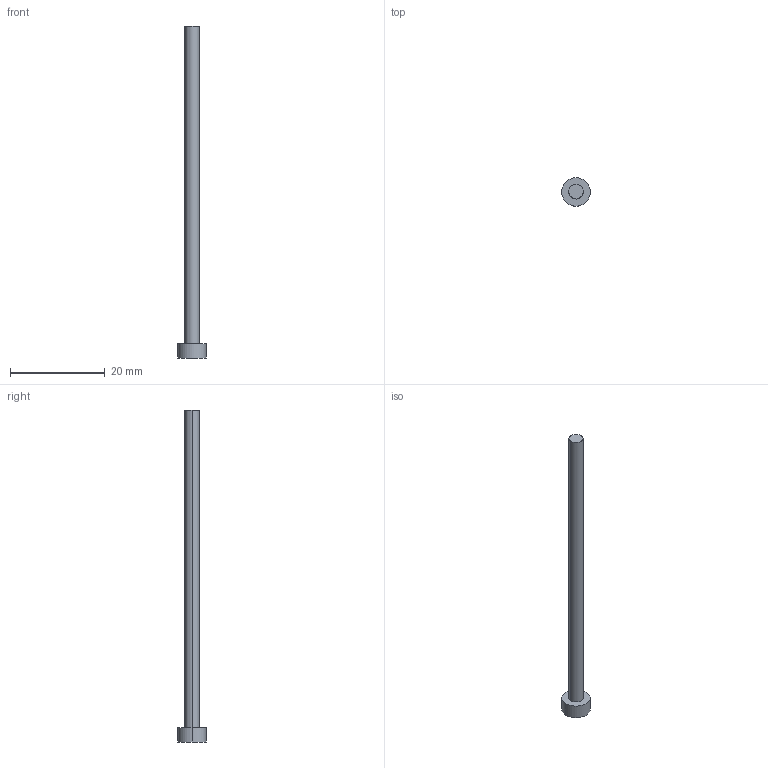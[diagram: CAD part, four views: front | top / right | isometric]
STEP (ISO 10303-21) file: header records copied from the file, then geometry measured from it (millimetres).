
FILE_DESCRIPTION (( 'STEP AP203' ), '1' );
FILE_NAME ('040 Ejecteur.STEP', '2021-10-27T18:30:24', ( '' ), ( '' ), 'SwSTEP 2.0', 'SolidWorks 2019', '' );
FILE_SCHEMA (( 'CONFIG_CONTROL_DESIGN' ));
Length unit declared in the file: millimetre
Products named in the file (1): 040 Ejecteur
Bounding box: 6 x 6 x 70 mm (x, y, z)
Volume: 558.4 mm3; surface area: 744.6 mm2
Topology: 1 solids, 1 shells, 7 faces, 12 edges, 8 vertices
Faces by surface type: cylinder 4, plane 3
Entity records: 251 total; most frequent: DIRECTION 36, CARTESIAN_POINT 28, ORIENTED_EDGE 24, AXIS2_PLACEMENT_3D 16, EDGE_CURVE 12, CIRCLE 8, EDGE_LOOP 8, VERTEX_POINT 8
